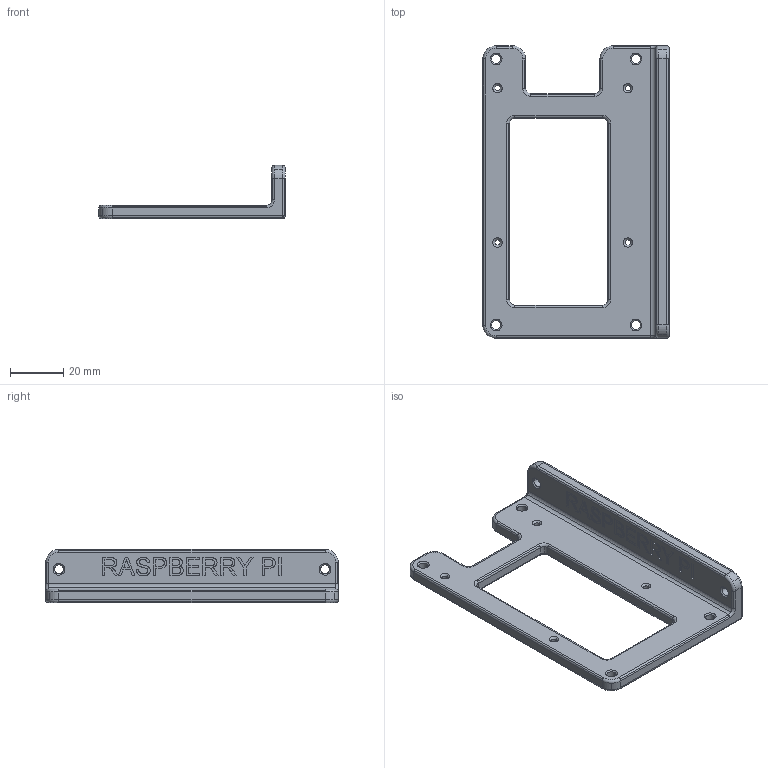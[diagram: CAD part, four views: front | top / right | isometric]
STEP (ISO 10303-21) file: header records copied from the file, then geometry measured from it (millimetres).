
FILE_DESCRIPTION(('STEP AP214'),'1');
FILE_NAME('Raspi5_Platte1_Solo.STP','2024-11-28T09:18:38',(' '),(' '),'Spatial InterOp 3D',' ',' ');
FILE_SCHEMA(('AUTOMOTIVE_DESIGN { 1 0 10303 214 1 1 1 1 }'));
Length unit declared in the file: millimetre
Products named in the file (1): Quader
Bounding box: 70 x 110 x 20 mm (x, y, z)
Volume: 30487.7 mm3; surface area: 15213.3 mm2
Topology: 1 solids, 1 shells, 567 faces, 1540 edges, 990 vertices
Faces by surface type: cylinder 362, plane 135, cone 40, torus 26, sphere 4
Entity records: 18655 total; most frequent: DIRECTION 3464, CARTESIAN_POINT 3094, ORIENTED_EDGE 3072, EDGE_CURVE 1536, AXIS2_PLACEMENT_3D 1360, VERTEX_POINT 990, CIRCLE 792, LINE 744
